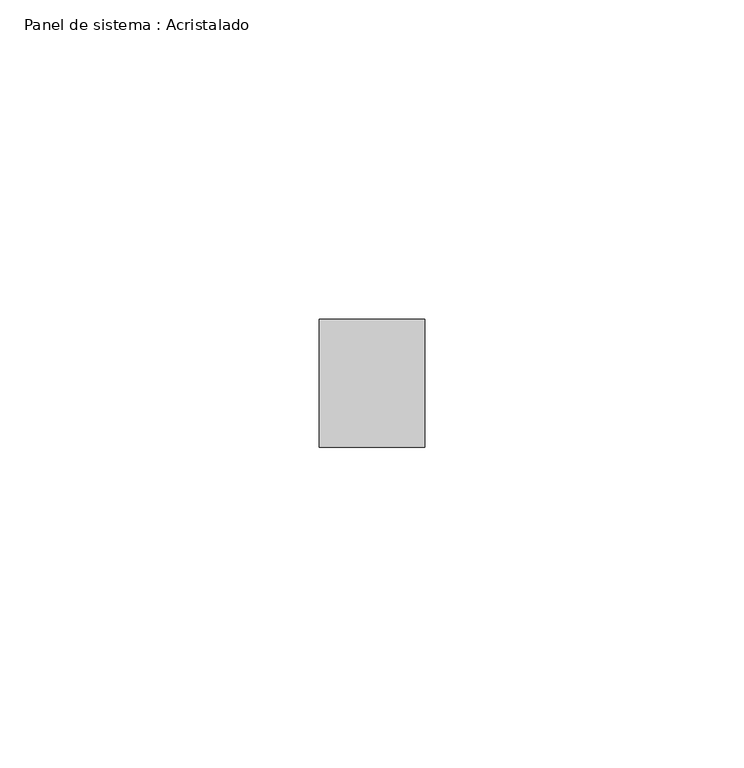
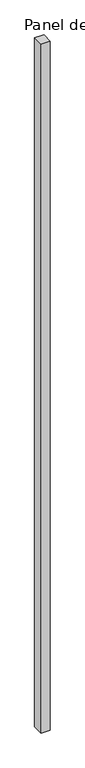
"""IFC4 building model written with IfcOpenShell, lengths in millimetres: plate geometry, Panel de sistema : Acristalado."""

import ifcopenshell
import ifcopenshell.guid

model = None  # the IFC model being written
_history = None  # IfcOwnerHistory: only IFC2X3 demands one
_inside = {}  # id of a spatial element -> (the spatial element, [elements in it])
_under = {}  # id of a project, library or spatial element -> (it, [spatial elements below it])
_declared = {}  # id of a project -> (the project, [libraries it declares])
_typed = {}  # id of a type object -> (the type object, [elements of that type])
_made_of = {}  # id of a material, layer set ... -> (it, [elements and type objects made of it])


def new_model(schema):
    """Start an empty IFC model of exactly this schema.

    Asked for "IFC4X3", IfcOpenShell would pick the latest addendum, in which some entities
    have other attributes; the version numbers below select the first issue.
    IFC2X3 requires an IfcOwnerHistory on every rooted entity: one is made here for all.
    """
    global model, _history
    if schema == "IFC4X3":
        model = ifcopenshell.file(schema_version=(4, 3, 0, 0))
    else:
        model = ifcopenshell.file(schema=schema)
    _inside.clear()
    _under.clear()
    _declared.clear()
    _typed.clear()
    _made_of.clear()
    _history = None
    if model.schema == "IFC2X3":
        org = make("IfcOrganization", Name="unknown")
        user = make(
            "IfcPersonAndOrganization",
            ThePerson=make("IfcPerson", FamilyName="unknown"),
            TheOrganization=org,
        )
        app = make(
            "IfcApplication",
            ApplicationDeveloper=org,
            Version="unknown",
            ApplicationFullName="unknown",
            ApplicationIdentifier="unknown",
        )
        _history = make(
            "IfcOwnerHistory",
            OwningUser=user,
            OwningApplication=app,
            ChangeAction="ADDED",
            CreationDate=0,
        )
    return model


def make(cls, **values):
    """One entity of the class cls with the attributes given. An attribute that is None is left unset."""
    return model.create_entity(
        cls, **{name: value for name, value in values.items() if value is not None}
    )


def rooted(cls, **values):
    """An entity with a GlobalId (a new one), such as an element, a storey or a relation."""
    return make(cls, GlobalId=ifcopenshell.guid.new(), OwnerHistory=_history, **values)


def si_unit(unit_type, name, prefix=None):
    """IfcSIUnit, for example si_unit("LENGTHUNIT", "METRE", prefix="MILLI")."""
    return make("IfcSIUnit", UnitType=unit_type, Prefix=prefix, Name=name)


def assignment(units):
    """IfcUnitAssignment: the units of a project."""
    return None if units is None else make("IfcUnitAssignment", Units=units)


def point(xyz):
    """IfcCartesianPoint."""
    return None if xyz is None else make("IfcCartesianPoint", Coordinates=xyz)


def direction(xyz):
    """IfcDirection."""
    return None if xyz is None else make("IfcDirection", DirectionRatios=xyz)


def frame(location, z_axis=None, x_axis=None):
    """IfcAxis2Placement3D, a coordinate frame: its origin and axes. An axis left out is left unset."""
    return make(
        "IfcAxis2Placement3D",
        Location=point(location),
        Axis=direction(z_axis),
        RefDirection=direction(x_axis),
    )


def origin():
    """The frame at (0, 0, 0) with its axes left unset."""
    return frame((0.0, 0.0, 0.0))


def origin_with_axes():
    """The frame at (0, 0, 0) with the z axis (0, 0, 1) and the x axis (1, 0, 0) written out."""
    return frame((0.0, 0.0, 0.0), z_axis=(0.0, 0.0, 1.0), x_axis=(1.0, 0.0, 0.0))


def place(relative_to, where):
    """IfcLocalPlacement: puts the frame where relative to a parent placement (None: the world)."""
    return make(
        "IfcLocalPlacement", PlacementRelTo=relative_to, RelativePlacement=where
    )


def context(
    kind, dimensions, precision=None, world=None, true_north=None, identifier=None
):
    """IfcGeometricRepresentationContext, for example the 3D "Model" context."""
    return make(
        "IfcGeometricRepresentationContext",
        ContextIdentifier=identifier,
        ContextType=kind,
        CoordinateSpaceDimension=dimensions,
        Precision=precision,
        WorldCoordinateSystem=world,
        TrueNorth=true_north,
    )


def project(units=None, contexts=None):
    """IfcProject with its units and contexts."""
    return rooted(
        "IfcProject",
        Name="project",
        RepresentationContexts=contexts,
        UnitsInContext=assignment(units),
    )


def spatial(cls, under=None, at=None, **own):
    """A site, building, storey or space (cls), placed at a placement, below another one or the project."""
    s = rooted(cls, ObjectPlacement=at, **own)
    if under is not None:
        _under.setdefault(under.id(), (under, []))[1].append(s)
    return s


def polyline(points):
    """IfcPolyline through the points."""
    return make("IfcPolyline", Points=[point(p) for p in points])


def outline(outer, holes=None, kind="AREA"):
    """IfcArbitraryClosedProfileDef: a profile drawn as a closed curve; with holes, ...WithVoids."""
    if holes is None:
        return make("IfcArbitraryClosedProfileDef", ProfileType=kind, OuterCurve=outer)
    return make(
        "IfcArbitraryProfileDefWithVoids",
        ProfileType=kind,
        OuterCurve=outer,
        InnerCurves=holes,
    )


def extrude(swept, where, along, depth):
    """IfcExtrudedAreaSolid: the profile swept, set in the frame where, extruded along a direction by depth."""
    return make(
        "IfcExtrudedAreaSolid",
        SweptArea=swept,
        Position=where,
        ExtrudedDirection=direction(along),
        Depth=depth,
    )


def shape(context_of_items, identifier, shape_type, items):
    """IfcShapeRepresentation: the items that make up one representation, for example the "Body"."""
    return make(
        "IfcShapeRepresentation",
        ContextOfItems=context_of_items,
        RepresentationIdentifier=identifier,
        RepresentationType=shape_type,
        Items=items,
    )


def source(mapping_origin, context_of_items, identifier, shape_type, items):
    """IfcRepresentationMap: a shape defined once, which mapped items show again and again."""
    return make(
        "IfcRepresentationMap",
        MappingOrigin=mapping_origin,
        MappedRepresentation=shape(context_of_items, identifier, shape_type, items),
    )


def transform(
    local_origin,
    x_axis=None,
    y_axis=None,
    z_axis=None,
    scale=None,
    scale2=None,
    scale3=None,
    uniform=True,
):
    """IfcCartesianTransformationOperator3D, or its non-uniform kind. x_axis, y_axis, z_axis: its Axis1, 2, 3."""
    if uniform:
        return make(
            "IfcCartesianTransformationOperator3D",
            Axis1=direction(x_axis),
            Axis2=direction(y_axis),
            LocalOrigin=point(local_origin),
            Scale=scale,
            Axis3=direction(z_axis),
        )
    return make(
        "IfcCartesianTransformationOperator3DnonUniform",
        Axis1=direction(x_axis),
        Axis2=direction(y_axis),
        LocalOrigin=point(local_origin),
        Scale=scale,
        Axis3=direction(z_axis),
        Scale2=scale2,
        Scale3=scale3,
    )


def mapped(mapping_source, mapping_target):
    """IfcMappedItem: shows the shape of a source again, moved by a transform."""
    return make(
        "IfcMappedItem", MappingSource=mapping_source, MappingTarget=mapping_target
    )


def made_of(thing, what):
    """Note that an element or type object is made of a material, layer set ...; save() writes the relation."""
    if what is not None:
        _made_of.setdefault(what.id(), (what, []))[1].append(thing)
    return thing


def element(
    cls,
    number,
    at=None,
    inside=None,
    cuts=None,
    type_object=None,
    material=None,
    context=None,
    identifier="Body",
    shape_type=None,
    held_by="IfcProductDefinitionShape",
    body=None,
    shapes=None,
    **own,
):
    """One element of the class cls, such as IfcWall. Its Tag is "e" and its number.

    at: its placement. inside: the storey or other place that contains it. cuts: it is an
    opening in that element (IfcRelVoidsElement). A single representation is given by context,
    identifier, shape_type and body (its items); several are given by shapes. held_by: the class
    of the entity that holds the representations. save() writes the other relations.
    """
    e = rooted(cls, Tag="e%d" % number, ObjectPlacement=at, **own)
    if body is not None:
        shapes = [shape(context, identifier, shape_type, body)]
    if shapes is not None:
        e.Representation = make(held_by, Representations=shapes)
    if inside is not None:
        _inside.setdefault(inside.id(), (inside, []))[1].append(e)
    if cuts is not None:
        rooted(
            "IfcRelVoidsElement", RelatingBuildingElement=cuts, RelatedOpeningElement=e
        )
    if type_object is not None:
        _typed.setdefault(type_object.id(), (type_object, []))[1].append(e)
    return made_of(e, material)


def aggregate(whole, parts):
    """IfcRelAggregates: a whole, such as a stair, and the parts it consists of."""
    return rooted("IfcRelAggregates", RelatingObject=whole, RelatedObjects=parts)


def save(model, path):
    """Write the relations noted so far, then the file.

    IfcRelAggregates (storeys below a building ...), IfcRelContainedInSpatialStructure (elements
    in a storey), IfcRelDefinesByType, IfcRelAssociatesMaterial and IfcRelDeclares: one each for
    every whole, place, type object, material and project.
    """
    for whole, parts in _under.values():
        aggregate(whole, parts)
    for where, things in _inside.values():
        rooted(
            "IfcRelContainedInSpatialStructure",
            RelatedElements=things,
            RelatingStructure=where,
        )
    for kind, things in _typed.values():
        rooted("IfcRelDefinesByType", RelatedObjects=things, RelatingType=kind)
    for what, things in _made_of.values():
        rooted("IfcRelAssociatesMaterial", RelatedObjects=things, RelatingMaterial=what)
    for by, libraries in _declared.values():
        rooted("IfcRelDeclares", RelatingContext=by, RelatedDefinitions=libraries)
    model.write(path)


def panel_de_sistema_acristalado_10758efd(model_context):
    return source(origin(), model_context, "Body", "SweptSolid", [
        extrude(outline(polyline([(8.2352306, -10.0), (-8.2352306, -10.0), (-8.2352306, 10.0), (8.2352306, 10.0), (8.2352306, -10.0)])), origin_with_axes(), (0.0, 0.0, 1.0), 1310.0),
    ])


if __name__ == "__main__":
    model = new_model("IFC4")
    model_context = context("Model", 3, world=origin())
    ifc_project = project(units=[si_unit("LENGTHUNIT", "METRE", prefix="MILLI")], contexts=[model_context])
    site = spatial("IfcSite", under=ifc_project)
    building = spatial("IfcBuilding", under=site)
    placement = place(None, origin())
    panel_de_sistema_acristalado_shape = panel_de_sistema_acristalado_10758efd(model_context)
    element("IfcPlate", 1, ObjectType="Panel de sistema : Acristalado", at=placement, inside=building, context=model_context, shape_type="MappedRepresentation", body=[
        mapped(panel_de_sistema_acristalado_shape, transform((0.0, 0.0, 0.0), x_axis=(1.0, 0.0, 0.0), y_axis=(0.0, 1.0, 0.0), z_axis=(0.0, 0.0, 1.0))),
    ])
    save(model, "model.ifc")
